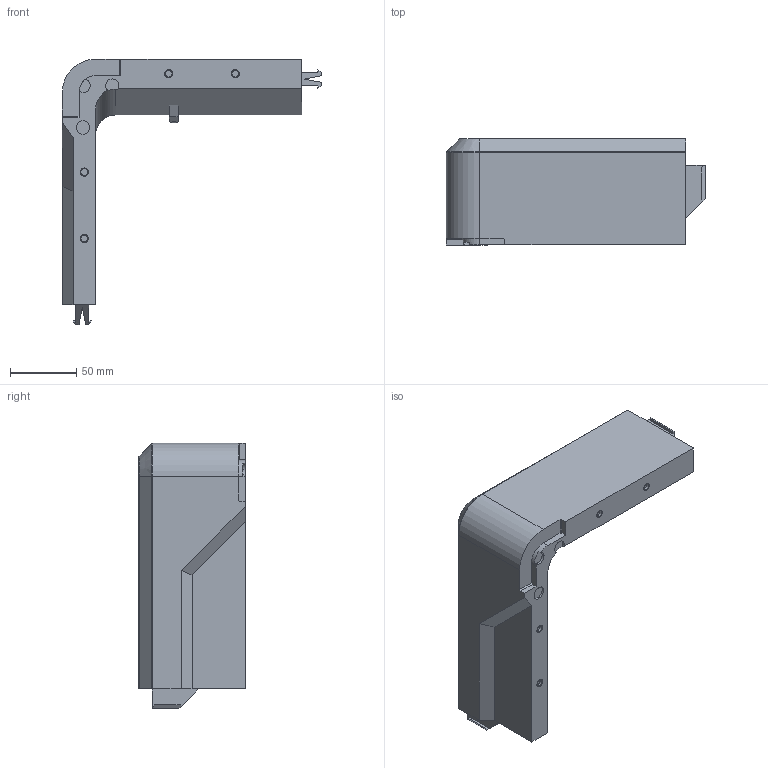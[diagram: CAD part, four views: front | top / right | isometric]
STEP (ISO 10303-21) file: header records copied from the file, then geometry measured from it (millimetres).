
FILE_DESCRIPTION (( 'STEP AP203' ), '1' );
FILE_NAME ('增高架-B（无logo）.STEP', '2024-01-17T02:10:46', ( '' ), ( '' ), 'SwSTEP 2.0', 'SolidWorks 2014', '' );
FILE_SCHEMA (( 'CONFIG_CONTROL_DESIGN' ));
Length unit declared in the file: millimetre
Products named in the file (1): ﾔﾟｼﾜ-B｣ｨﾎﾞlogo｣ｩ
Bounding box: 195 x 80 x 199.95 mm (x, y, z)
Volume: 739661.1 mm3; surface area: 77604.3 mm2
Topology: 1 solids, 1 shells, 107 faces, 281 edges, 185 vertices
Faces by surface type: plane 68, cylinder 28, cone 9, torus 2
Entity records: 3371 total; most frequent: CARTESIAN_POINT 589, DIRECTION 566, ORIENTED_EDGE 562, EDGE_CURVE 281, VECTOR 202, LINE 202, VERTEX_POINT 185, AXIS2_PLACEMENT_3D 182
